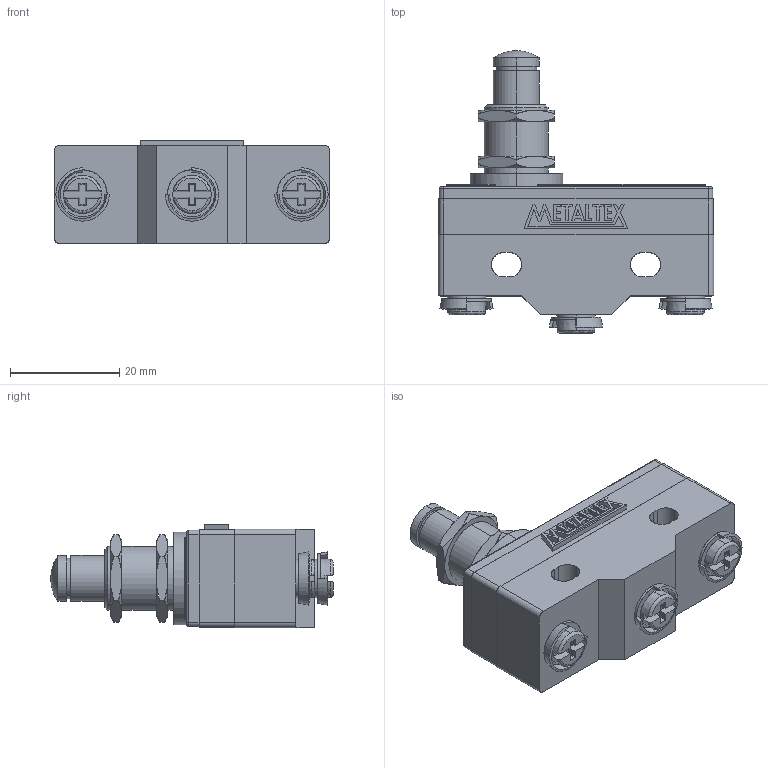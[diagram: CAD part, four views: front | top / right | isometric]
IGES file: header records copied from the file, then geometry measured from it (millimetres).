
Start section: SolidWorks IGES file using analytic representation for surfaces
Global section: file name: D:\X - Arquivos\PROEX\Empresas\P11 - METALTEX\01 - Produtos\IGES\4ª remessa\1ª etapa\FM1307.IGS; native system: SolidWorks 2012; preprocessor: SolidWorks 2012; author: Usuario; date: 180323.102456; units: millimetre
Bounding box: 50.3 x 51.57 x 18.9 mm (x, y, z)
Surface area: 7380 mm2 (no closed solid volume)
Topology: 0 solids, 0 shells, 318 faces, 3411 edges, 3399 vertices
Faces by surface type: bspline 213, revolution 105
